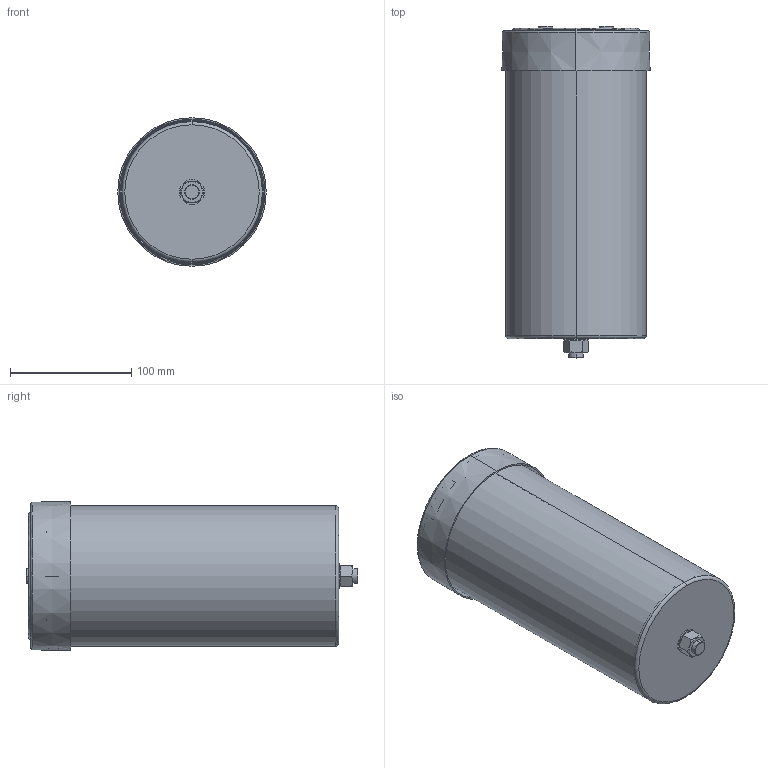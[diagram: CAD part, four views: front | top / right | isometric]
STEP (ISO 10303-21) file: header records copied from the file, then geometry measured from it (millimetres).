
FILE_DESCRIPTION (( 'STEP AP203' ), '1' );
FILE_NAME ('B25680Cx_116x256_258.STEP', '2021-09-30T03:07:50', ( '' ), ( '' ), 'SwSTEP 2.0', 'SolidWorks 2017', '' );
FILE_SCHEMA (( 'CONFIG_CONTROL_DESIGN' ));
Length unit declared in the file: millimetre
Products named in the file (1): B25680Cx_116x256_258
Bounding box: 122.58 x 274 x 122.58 mm (x, y, z)
Volume: 180486.6 mm3; surface area: 302078.7 mm2
Topology: 1 solids, 7 shells, 577 faces, 1430 edges, 903 vertices
Faces by surface type: plane 209, cylinder 168, bspline 83, cone 75, torus 42
Entity records: 20405 total; most frequent: CARTESIAN_POINT 6993, ORIENTED_EDGE 2834, DIRECTION 2774, EDGE_CURVE 1417, AXIS2_PLACEMENT_3D 1124, VERTEX_POINT 903, EDGE_LOOP 640, CIRCLE 629
